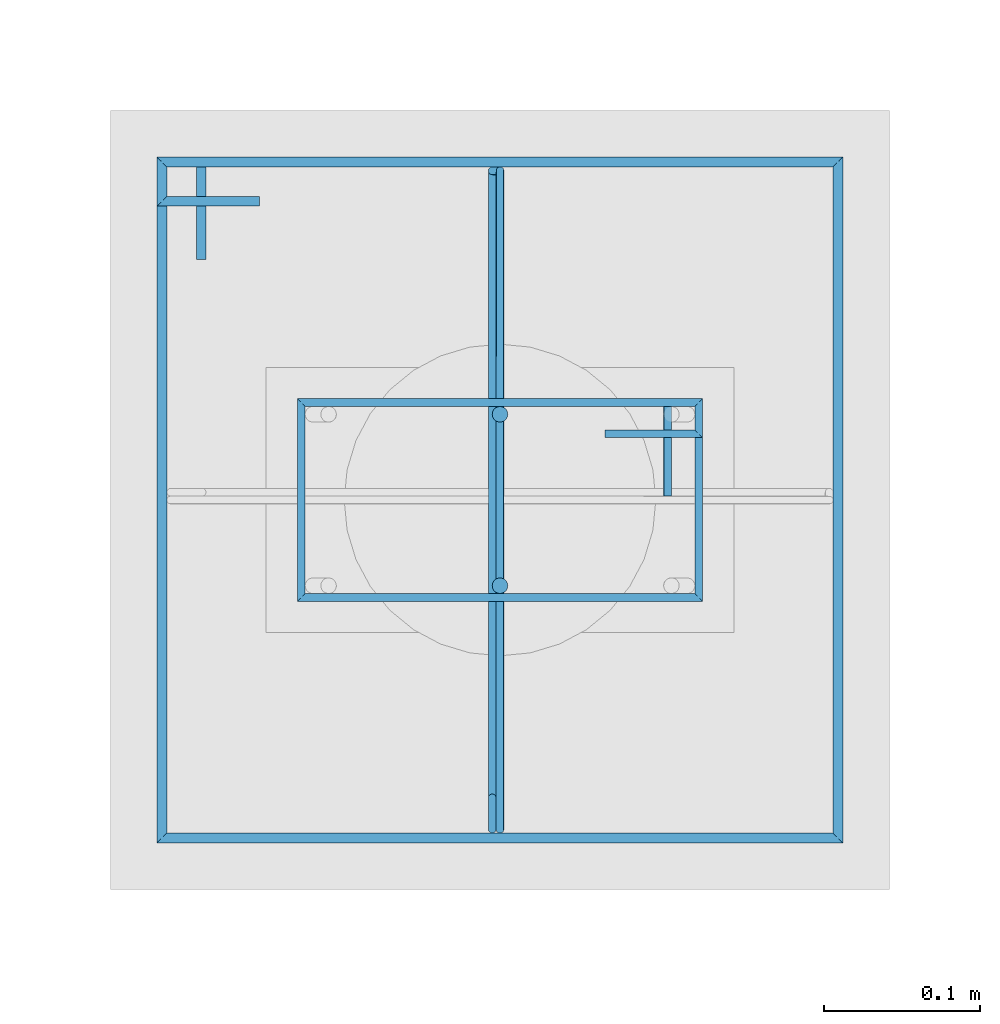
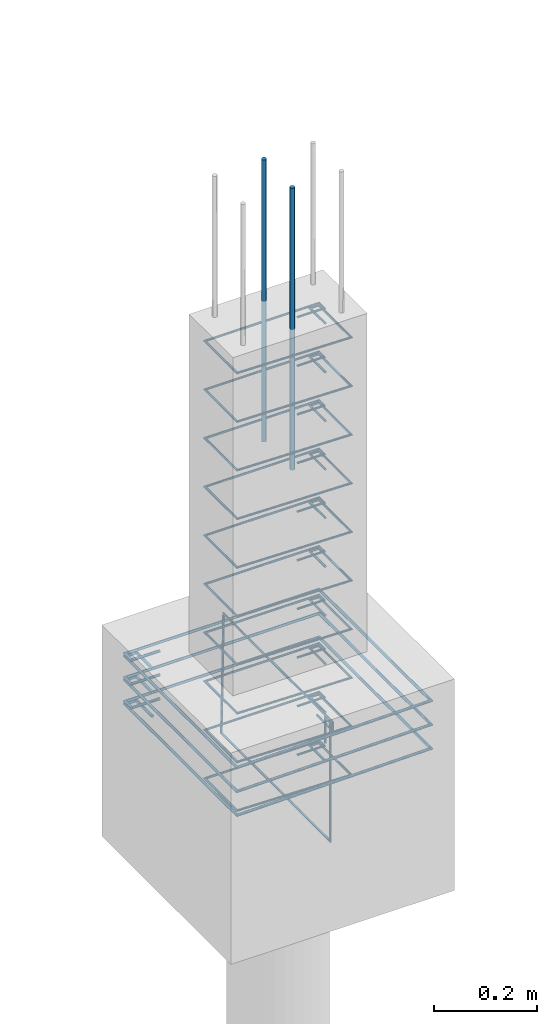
# One storey, part 114 of 119: 16 reinforcing bars.
"""IFC4 building model written with IfcOpenShell, lengths in centimetres."""

from ifc_helpers import new_model, entity, si_unit, derived_unit, frame, origin_with_axes, place, context, project, spatial, source, transform, mapped, element, save


model = new_model("IFC4")

# Units and contexts
model_context = context("Model", 3, precision=1e-05, world=origin_with_axes(), identifier="Body")
ifc_project = project(units=[si_unit("LENGTHUNIT", "METRE", prefix="CENTI"), si_unit("VOLUMEUNIT", "CUBIC_METRE"), si_unit("AREAUNIT", "SQUARE_METRE"), si_unit("POWERUNIT", "WATT"), si_unit("LUMINOUSFLUXUNIT", "LUMEN"), si_unit("ELECTRICCURRENTUNIT", "AMPERE"), si_unit("PRESSUREUNIT", "PASCAL", prefix="KILO"), si_unit("MASSUNIT", "GRAM", prefix="KILO"), si_unit("PLANEANGLEUNIT", "RADIAN"), derived_unit("VOLUMETRICFLOWRATEUNIT", [(si_unit("LENGTHUNIT", "METRE"), 3), (si_unit("TIMEUNIT", "SECOND"), -1)])], contexts=[model_context])

# Site, building, storey
site_placement = place(None, frame((-4000.0, 0.0, 0.0), z_axis=(0.0, 0.0, 1.0), x_axis=(1.0, 0.0, 0.0)))
site = spatial("IfcSite", under=ifc_project, at=site_placement, Name="PADRÃO")
building_placement = place(site_placement, frame((0.0, 0.0, -14.0)))
building = spatial("IfcBuilding", under=site, at=building_placement, Name="CRECHE PRÉ-ESCOLA TIPO 2")
storey_placement = place(building_placement, origin_with_axes())
storey = spatial("IfcBuildingStorey", under=building, at=storey_placement, Name="FUNDAÇÃO", CompositionType="ELEMENT", Elevation=-14.0)

# Reinforcing bars
shared_shape_1 = source(origin_with_axes(), model_context, "Body", "AdvancedSweptSolid", [
    entity("IfcSweptDiskSolid", entity("IfcCompositeCurve", [entity("IfcCompositeCurveSegment", "CONTINUOUS", True, entity("IfcPolyline", [entity("IfcCartesianPoint", [4.25, 21.75, 0.0]), entity("IfcCartesianPoint", [4.25, 27.75, 0.0])])), entity("IfcCompositeCurveSegment", "CONTINUOUS", True, entity("IfcPolyline", [entity("IfcCartesianPoint", [4.25, 27.75, 0.0]), entity("IfcCartesianPoint", [2.25, 27.75, 0.0])])), entity("IfcCompositeCurveSegment", "CONTINUOUS", True, entity("IfcPolyline", [entity("IfcCartesianPoint", [2.25, 27.75, 0.0]), entity("IfcCartesianPoint", [2.25, 2.25, 0.0])])), entity("IfcCompositeCurveSegment", "CONTINUOUS", True, entity("IfcPolyline", [entity("IfcCartesianPoint", [2.25, 2.25, 0.0]), entity("IfcCartesianPoint", [14.75, 2.25, 0.0])])), entity("IfcCompositeCurveSegment", "CONTINUOUS", True, entity("IfcPolyline", [entity("IfcCartesianPoint", [14.75, 2.25, 0.0]), entity("IfcCartesianPoint", [14.75, 27.75, -0.5])])), entity("IfcCompositeCurveSegment", "CONTINUOUS", True, entity("IfcPolyline", [entity("IfcCartesianPoint", [14.75, 27.75, -0.5]), entity("IfcCartesianPoint", [2.25, 27.75, -0.5])])), entity("IfcCompositeCurveSegment", "CONTINUOUS", True, entity("IfcPolyline", [entity("IfcCartesianPoint", [2.25, 27.75, -0.5]), entity("IfcCartesianPoint", [2.25, 25.75, -0.5])])), entity("IfcCompositeCurveSegment", "CONTINUOUS", True, entity("IfcPolyline", [entity("IfcCartesianPoint", [2.25, 25.75, -0.5]), entity("IfcCartesianPoint", [8.25, 25.75, -0.5])]))], False), 0.25),
])
for number, where, z_axis, x_axis, name in (
    (1, (3357.5, 3478.52, -5.75), (0.0, 0.0, 1.0), (0.0, -1.0, 0.0), "P45 - Estribo"),
    (2, (3357.5, 3478.52, -28.75), (0.0, 0.0, 1.0), (0.0, -1.0, 0.0), "P45 - Estribo"),
    (3, (3357.5, 3478.52, -17.25), (0.0, 0.0, 1.0), (0.0, -1.0, 0.0), "P45 - Estribo"),
    (4, (3357.5, 3478.52, -109.25), (0.0, 0.0, 1.0), (0.0, -1.0, 0.0), "P45 - Estribo"),
    (5, (3357.5, 3478.52, -97.75), (0.0, 0.0, 1.0), (0.0, -1.0, 0.0), "P45 - Estribo"),
    (6, (3357.5, 3478.52, -86.25), (0.0, 0.0, 1.0), (0.0, -1.0, 0.0), "P45 - Estribo"),
    (7, (3357.5, 3478.52, -63.25), (0.0, 0.0, 1.0), (0.0, -1.0, 0.0), "P45 - Estribo"),
    (8, (3357.5, 3478.52, -51.75), (0.0, 0.0, 1.0), (0.0, -1.0, 0.0), "P45 - Estribo"),
    (9, (3357.5, 3478.52, -40.25), (0.0, 0.0, 1.0), (0.0, -1.0, 0.0), "P45 - Estribo"),
    (10, (3357.5, 3478.52, -74.75), (0.0, 0.0, 1.0), (0.0, -1.0, 0.0), "P45 - Estribo"),
):
    element("IfcReinforcingBar", number, at=place(storey_placement, frame(where, z_axis=z_axis, x_axis=x_axis)), inside=storey, Name=name, BarLength=0.0, CrossSectionArea=1.9634954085e-05, NominalDiameter=0.5, PredefinedType="MAIN", context=model_context, shape_type="MappedRepresentation", body=[
        mapped(shared_shape_1, transform((0.0, 0.0, 0.0), scale=1.0)),
    ])
shared_shape_2 = source(origin_with_axes(), model_context, "Body", "AdvancedSweptSolid", [
    entity("IfcSweptDiskSolid", entity("IfcCompositeCurve", [entity("IfcCompositeCurveSegment", "CONTINUOUS", True, entity("IfcPolyline", [entity("IfcCartesianPoint", [3353.335, 3485.445, 0.0]), entity("IfcCartesianPoint", [3353.335, 3491.705, 0.0])])), entity("IfcCompositeCurveSegment", "CONTINUOUS", True, entity("IfcPolyline", [entity("IfcCartesianPoint", [3353.335, 3491.705, 0.0]), entity("IfcCartesianPoint", [3350.815, 3491.705, 0.0])])), entity("IfcCompositeCurveSegment", "CONTINUOUS", True, entity("IfcPolyline", [entity("IfcCartesianPoint", [3350.815, 3491.705, 0.0]), entity("IfcCartesianPoint", [3350.815, 3448.335, 0.0])])), entity("IfcCompositeCurveSegment", "CONTINUOUS", True, entity("IfcPolyline", [entity("IfcCartesianPoint", [3350.815, 3448.335, 0.0]), entity("IfcCartesianPoint", [3394.185, 3448.335, 0.63])])), entity("IfcCompositeCurveSegment", "CONTINUOUS", True, entity("IfcPolyline", [entity("IfcCartesianPoint", [3394.185, 3448.335, 0.63]), entity("IfcCartesianPoint", [3394.185, 3491.705, 0.63])])), entity("IfcCompositeCurveSegment", "CONTINUOUS", True, entity("IfcPolyline", [entity("IfcCartesianPoint", [3394.185, 3491.705, 0.63]), entity("IfcCartesianPoint", [3350.815, 3491.705, 0.63])])), entity("IfcCompositeCurveSegment", "CONTINUOUS", True, entity("IfcPolyline", [entity("IfcCartesianPoint", [3350.815, 3491.705, 0.63]), entity("IfcCartesianPoint", [3350.815, 3489.185, 0.63])])), entity("IfcCompositeCurveSegment", "CONTINUOUS", True, entity("IfcPolyline", [entity("IfcCartesianPoint", [3350.815, 3489.185, 0.63]), entity("IfcCartesianPoint", [3357.075, 3489.185, 0.63])]))], False), 0.315),
])
for number, where, z_axis, x_axis, name in (
    (11, (0.0, 0.0, -97.875), (0.0, 0.0, 1.0), (1.0, 0.0, 0.0), "P45 - Blocos (estribos)"),
    (12, (0.0, 0.0, -92.225), (0.0, 0.0, 1.0), (1.0, 0.0, 0.0), "P45 - Blocos (estribos)"),
    (13, (0.0, 0.0, -86.575), (0.0, 0.0, 1.0), (1.0, 0.0, 0.0), "P45 - Blocos (estribos)"),
):
    element("IfcReinforcingBar", number, at=place(storey_placement, frame(where, z_axis=z_axis, x_axis=x_axis)), inside=storey, Name=name, BarLength=0.0, CrossSectionArea=3.1172453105e-05, NominalDiameter=0.63, PredefinedType="MAIN", context=model_context, shape_type="MappedRepresentation", body=[
        mapped(shared_shape_2, transform((0.0, 0.0, 0.0), scale=1.0)),
    ])
shared_shape_3 = source(origin_with_axes(), model_context, "Body", "AdvancedSweptSolid", [
    entity("IfcSweptDiskSolid", entity("IfcCompositeCurve", [entity("IfcCompositeCurveSegment", "CONTINUOUS", True, entity("IfcPolyline", [entity("IfcCartesianPoint", [-15.12, -12.0, 0.0]), entity("IfcCartesianPoint", [-21.12, -12.0, 0.0])])), entity("IfcCompositeCurveSegment", "CONTINUOUS", True, entity("IfcPolyline", [entity("IfcCartesianPoint", [-21.12, -12.0, 0.0]), entity("IfcCartesianPoint", [-21.12, -14.0, 0.0])])), entity("IfcCompositeCurveSegment", "CONTINUOUS", True, entity("IfcPolyline", [entity("IfcCartesianPoint", [-21.12, -14.0, 0.0]), entity("IfcCartesianPoint", [21.12, -14.0, 0.0])])), entity("IfcCompositeCurveSegment", "CONTINUOUS", True, entity("IfcPolyline", [entity("IfcCartesianPoint", [21.12, -14.0, 0.0]), entity("IfcCartesianPoint", [21.12, 14.0, 0.5])])), entity("IfcCompositeCurveSegment", "CONTINUOUS", True, entity("IfcPolyline", [entity("IfcCartesianPoint", [21.12, 14.0, 0.5]), entity("IfcCartesianPoint", [-21.12, 14.0, 0.5])])), entity("IfcCompositeCurveSegment", "CONTINUOUS", True, entity("IfcPolyline", [entity("IfcCartesianPoint", [-21.12, 14.0, 0.5]), entity("IfcCartesianPoint", [-21.12, -14.0, 0.5])])), entity("IfcCompositeCurveSegment", "CONTINUOUS", True, entity("IfcPolyline", [entity("IfcCartesianPoint", [-21.12, -14.0, 0.5]), entity("IfcCartesianPoint", [-19.12, -14.0, 0.5])])), entity("IfcCompositeCurveSegment", "CONTINUOUS", True, entity("IfcPolyline", [entity("IfcCartesianPoint", [-19.12, -14.0, 0.5]), entity("IfcCartesianPoint", [-19.12, -8.0, 0.5])]))], False), 0.25),
])
reinforcing_bar_placement = place(storey_placement, frame((3372.5, 3470.02, -97.75), z_axis=(-1.0, 0.0, 0.0), x_axis=(0.0, 1.0, 0.0)))
element("IfcReinforcingBar", 14, at=reinforcing_bar_placement, inside=storey, Name="P45 - Blocos (estribos)", BarLength=0.0, CrossSectionArea=1.9634954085e-05, NominalDiameter=0.5, PredefinedType="MAIN", context=model_context, shape_type="MappedRepresentation", body=[
    mapped(shared_shape_3, transform((0.0, 0.0, 0.0), scale=1.0)),
])
for number, where, z_axis, x_axis, name in (
    (15, (3372.5, 3475.52, 33.3573001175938), (0.0, 0.0, 1.0), (1.0, 0.0, 0.0), "P45 - Longitudinal"),
    (16, (3372.5, 3464.52, 33.3573001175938), (0.0, 0.0, 1.0), (1.0, 0.0, 0.0), "P45 - Longitudinal"),
):
    element("IfcReinforcingBar", number, at=place(storey_placement, frame(where, z_axis=z_axis, x_axis=x_axis)), inside=storey, Name=name, BarLength=0.0, CrossSectionArea=7.853981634e-05, NominalDiameter=1.0, PredefinedType="MAIN", context=model_context, shape_type="AdvancedSweptSolid", body=[
        entity("IfcSweptDiskSolid", entity("IfcCompositeCurve", [entity("IfcCompositeCurveSegment", "CONTINUOUS", True, entity("IfcPolyline", [entity("IfcCartesianPoint", [0.0, 0.0, -66.7146002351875]), entity("IfcCartesianPoint", [0.0, 0.0, 0.0])]))], False), 0.5),
    ])

save(model, "model.ifc")
